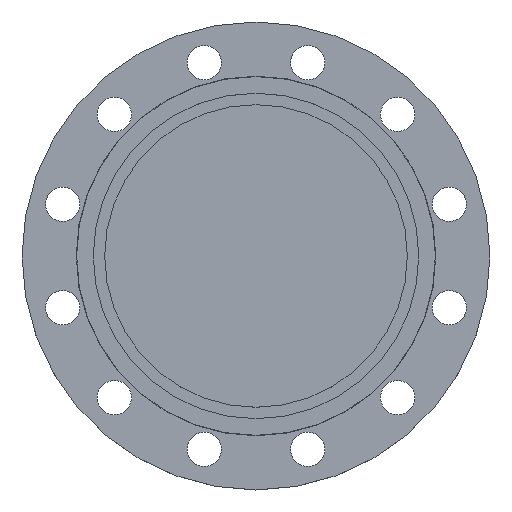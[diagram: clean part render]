
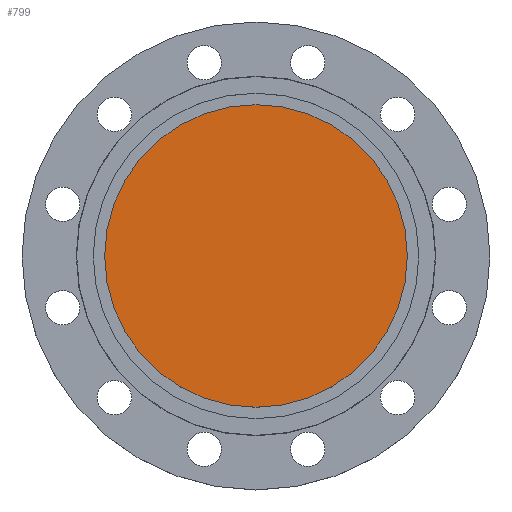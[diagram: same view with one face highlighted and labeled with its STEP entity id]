
A CAD part, top view. The second image highlights one B-rep face of the part: STEP entity #799.
In plain terms, the highlighted planar face has unit normal (0, 0, 1).
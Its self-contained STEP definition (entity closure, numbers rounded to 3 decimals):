
#2 = AXIS2_PLACEMENT_3D ( 'NONE', #463, #462, #461 ) ;
#136 = CARTESIAN_POINT ( 'NONE',  ( 145.5, 0., 0. ) ) ;
#164 = EDGE_CURVE ( 'NONE', #1033, #940, #798, .T. ) ;
#182 = AXIS2_PLACEMENT_3D ( 'NONE', #450, #449, #448 ) ;
#279 = CARTESIAN_POINT ( 'NONE',  ( -145.5, 0., 0. ) ) ;
#382 = CIRCLE ( 'NONE', #2, 145.5 ) ;
#448 = DIRECTION ( 'NONE',  ( 1., 0., 0. ) ) ;
#449 = DIRECTION ( 'NONE',  ( 0., 0., 1. ) ) ;
#450 = CARTESIAN_POINT ( 'NONE',  ( 0., 0., 0. ) ) ;
#451 = PLANE ( 'NONE',  #182 ) ;
#452 = FACE_OUTER_BOUND ( 'NONE', #976, .T. ) ;
#461 = DIRECTION ( 'NONE',  ( -1., 0., 0. ) ) ;
#462 = DIRECTION ( 'NONE',  ( 0., 0., -1. ) ) ;
#463 = CARTESIAN_POINT ( 'NONE',  ( 0., 0., 0. ) ) ;
#676 = DIRECTION ( 'NONE',  ( 0., 0., -1. ) ) ;
#719 = DIRECTION ( 'NONE',  ( -1., 0., 0. ) ) ;
#786 = EDGE_CURVE ( 'NONE', #940, #1033, #382, .T. ) ;
#789 = AXIS2_PLACEMENT_3D ( 'NONE', #1049, #676, #719 ) ;
#798 = CIRCLE ( 'NONE', #789, 145.5 ) ;
#799 = ADVANCED_FACE ( 'NONE', ( #452 ), #451, .T. ) ;
#940 = VERTEX_POINT ( 'NONE', #279 ) ;
#976 = EDGE_LOOP ( 'NONE', ( #1217, #1219 ) ) ;
#1033 = VERTEX_POINT ( 'NONE', #136 ) ;
#1049 = CARTESIAN_POINT ( 'NONE',  ( 0., 0., 0. ) ) ;
#1217 = ORIENTED_EDGE ( 'NONE', *, *, #786, .F. ) ;
#1219 = ORIENTED_EDGE ( 'NONE', *, *, #164, .F. ) ;
